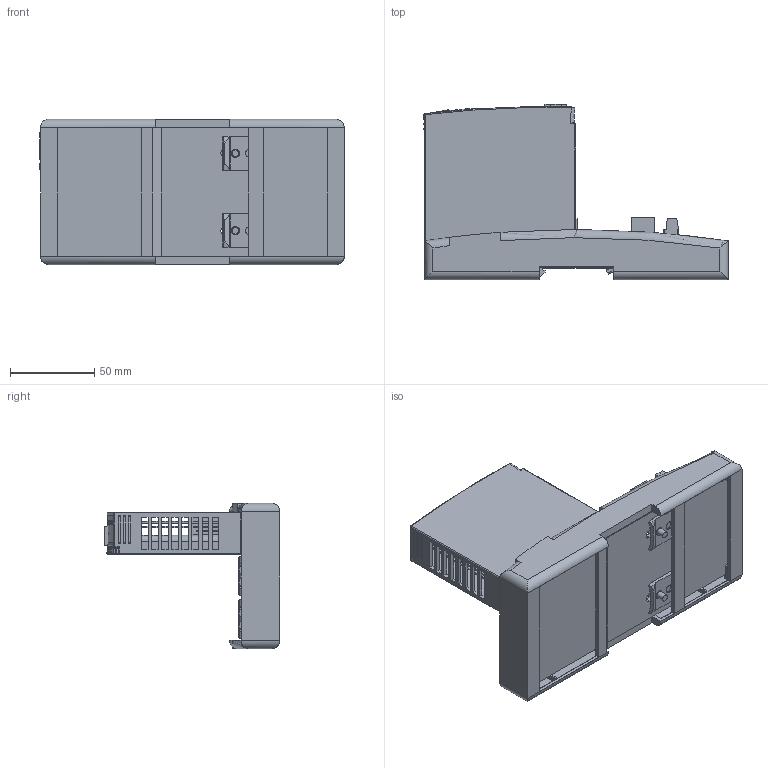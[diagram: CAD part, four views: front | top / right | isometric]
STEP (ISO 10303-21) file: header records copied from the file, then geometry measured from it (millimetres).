
FILE_DESCRIPTION((''),'2;1');
FILE_NAME('2500_2W_BLANK_IGESFILE','2012-04-11T',('chrisloe'),(''),'PRO/ENGINEER BY PARAMETRIC TECHNOLOGY CORPORATION, 2010180','PRO/ENGINEER BY PARAMETRIC TECHNOLOGY CORPORATION, 2010180','');
FILE_SCHEMA(('CONFIG_CONTROL_DESIGN'));
Products named in the file (1): 2500_2W_BLANK_IGESFILE
Bounding box: 180.4 x 104.1 x 86.2 mm (x, y, z)
Volume: 152728 mm3; surface area: 141496.8 mm2
Topology: 2 solids, 10 shells, 2965 faces, 8288 edges, 5311 vertices
Faces by surface type: plane 2253, cylinder 476, cone 99, bspline 70, torus 51, sphere 16
Entity records: 99470 total; most frequent: CARTESIAN_POINT 24557, ORIENTED_EDGE 16536, DIRECTION 14172, EDGE_CURVE 8272, VECTOR 5796, LINE 5796, VERTEX_POINT 5311, AXIS2_PLACEMENT_3D 4188
